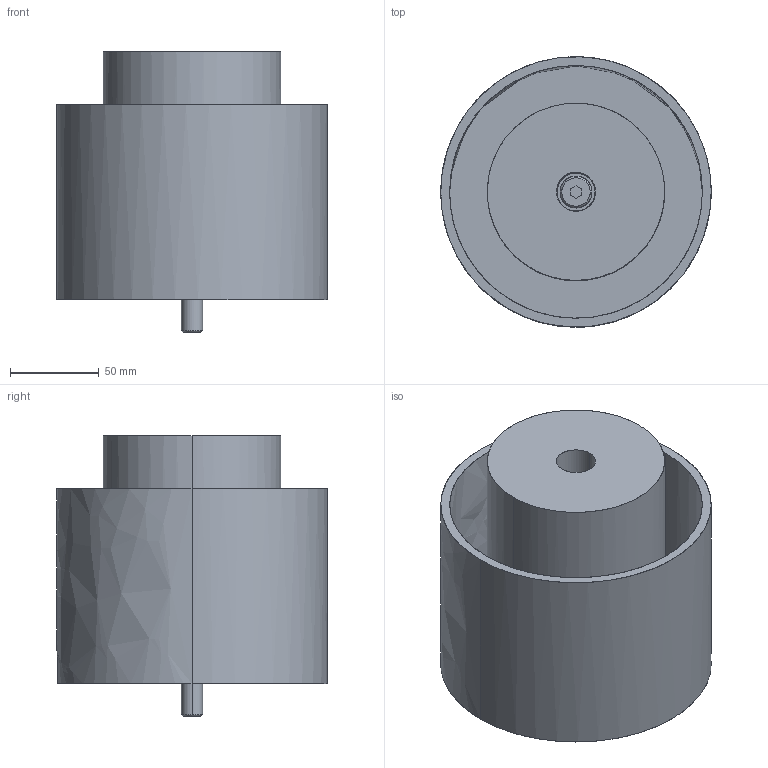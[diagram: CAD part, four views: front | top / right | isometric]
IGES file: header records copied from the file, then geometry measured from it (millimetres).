
Global section: file name: E:\UnigraphicsGraphicData\MISUMI_PRESS-PARTS\IGES\3d_phbtn100-140-110-r_07073_r00.igs; native system: NX V5.0; preprocessor: UGS NX IGES V5.0; author: MISUMI; date: 20110105.162249; units: millimetre
Bounding box: 152.5 x 152.5 x 158.4 mm (x, y, z)
Surface area: 213255.6 mm2 (no closed solid volume)
Topology: 0 solids, 0 shells, 50 faces, 396 edges, 396 vertices
Faces by surface type: bspline 50
